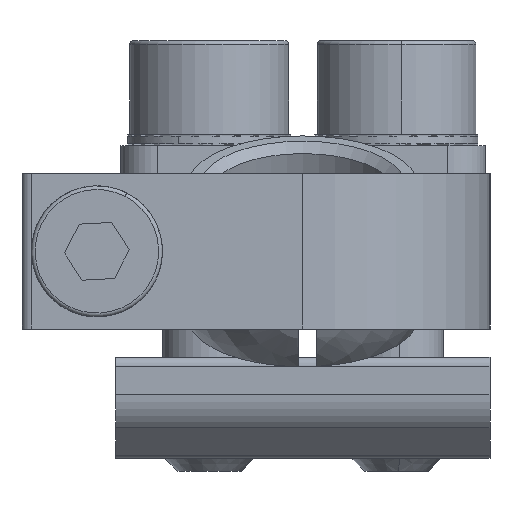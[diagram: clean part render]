
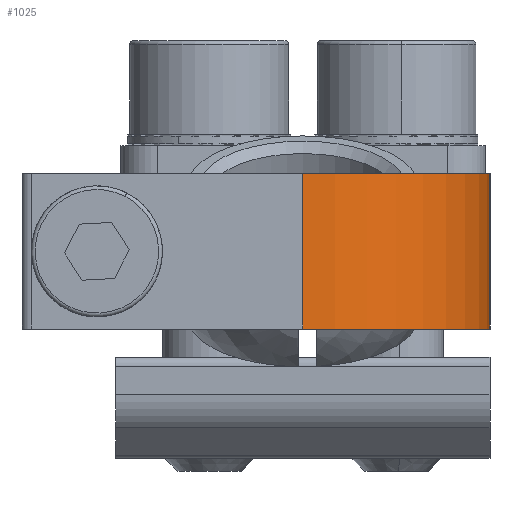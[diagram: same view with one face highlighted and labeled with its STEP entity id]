
A CAD part, left-side view. The second image highlights one B-rep face of the part: STEP entity #1025.
In plain terms, the highlighted cylindrical face has radius 10 mm (diameter 20 mm), a partial arc.
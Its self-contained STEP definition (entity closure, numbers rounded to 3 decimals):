
#146=CYLINDRICAL_SURFACE('',#14788,10.);
#246=CIRCLE('',#14756,10.);
#261=CIRCLE('',#14772,10.);
#1025=ADVANCED_FACE('',(#2440),#146,.T.);
#2440=FACE_OUTER_BOUND('',#3204,.T.);
#3204=EDGE_LOOP('',(#4068,#4069,#4070,#4071));
#4068=ORIENTED_EDGE('',*,*,#9771,.T.);
#4069=ORIENTED_EDGE('',*,*,#9770,.F.);
#4070=ORIENTED_EDGE('',*,*,#9800,.F.);
#4071=ORIENTED_EDGE('',*,*,#9818,.T.);
#8326=VERTEX_POINT('',#20709);
#8327=VERTEX_POINT('',#20711);
#8328=VERTEX_POINT('',#20715);
#8355=VERTEX_POINT('',#20771);
#9770=EDGE_CURVE('',#8327,#8326,#11936,.T.);
#9771=EDGE_CURVE('',#8328,#8326,#246,.T.);
#9800=EDGE_CURVE('',#8355,#8327,#261,.T.);
#9818=EDGE_CURVE('',#8355,#8328,#11961,.T.);
#11936=LINE('',#20712,#13343);
#11961=LINE('',#20813,#13368);
#13343=VECTOR('',#16282,1.);
#13368=VECTOR('',#16369,1.);
#14756=AXIS2_PLACEMENT_3D('',#20714,#16285,#16286);
#14772=AXIS2_PLACEMENT_3D('',#20772,#16331,#16332);
#14788=AXIS2_PLACEMENT_3D('',#20817,#16375,#16376);
#16282=DIRECTION('',(0.,0.,1.));
#16285=DIRECTION('',(0.,0.,-1.));
#16286=DIRECTION('',(0.,1.,0.));
#16331=DIRECTION('',(0.,0.,-1.));
#16332=DIRECTION('',(0.,1.,0.));
#16369=DIRECTION('',(0.,0.,1.));
#16375=DIRECTION('',(0.,0.,1.));
#16376=DIRECTION('',(0.,1.,0.));
#20709=CARTESIAN_POINT('',(-10.,0.,0.));
#20711=CARTESIAN_POINT('',(-10.,0.,-8.3));
#20712=CARTESIAN_POINT('',(-10.,0.,-8.3));
#20714=CARTESIAN_POINT('',(0.,0.,0.));
#20715=CARTESIAN_POINT('',(0.,-10.,0.));
#20771=CARTESIAN_POINT('',(0.,-10.,-8.3));
#20772=CARTESIAN_POINT('',(0.,0.,-8.3));
#20813=CARTESIAN_POINT('',(0.,-10.,-8.3));
#20817=CARTESIAN_POINT('',(0.,0.,-8.3));
